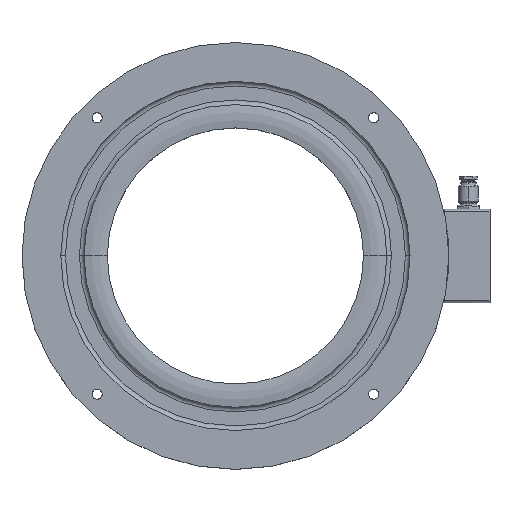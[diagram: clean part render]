
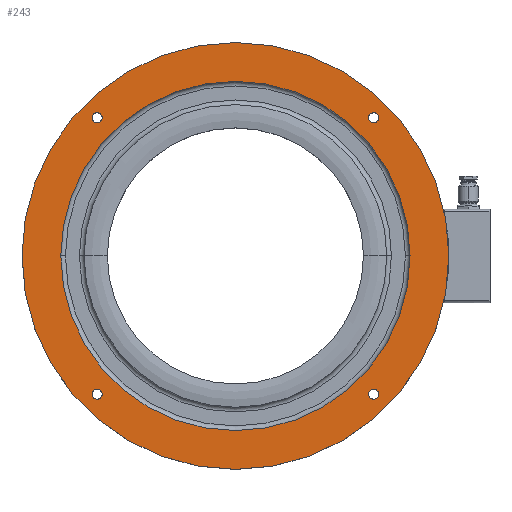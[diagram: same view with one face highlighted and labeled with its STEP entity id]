
A CAD part, top view. The second image highlights one B-rep face of the part: STEP entity #243.
In plain terms, the highlighted planar face has unit normal (0, 0, 1) as drawn and (0, 1, 0) by its records, which use the part's own axes.
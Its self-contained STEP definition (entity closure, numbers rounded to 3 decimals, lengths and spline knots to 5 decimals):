
#243=ADVANCED_FACE('0:66',(#510,#511,#512,#513,#514,#515),#516,.T.);
#510=FACE_OUTER_BOUND('',#841,.T.);
#511=FACE_BOUND('',#842,.T.);
#512=FACE_BOUND('',#843,.T.);
#513=FACE_BOUND('',#844,.T.);
#514=FACE_BOUND('',#845,.T.);
#515=FACE_BOUND('',#846,.T.);
#516=PLANE('',#847);
#841=EDGE_LOOP('',(#1270,#1271));
#842=EDGE_LOOP('',(#1272,#1273));
#843=EDGE_LOOP('',(#1274,#1275));
#844=EDGE_LOOP('',(#1276,#1277));
#845=EDGE_LOOP('',(#1278,#1279));
#846=EDGE_LOOP('',(#1280,#1281));
#847=AXIS2_PLACEMENT_3D('',#1282,#1283,#1284);
#1270=ORIENTED_EDGE('',*,*,#1944,.F.);
#1271=ORIENTED_EDGE('',*,*,#1999,.F.);
#1272=ORIENTED_EDGE('',*,*,#1964,.F.);
#1273=ORIENTED_EDGE('',*,*,#1990,.F.);
#1274=ORIENTED_EDGE('',*,*,#1969,.F.);
#1275=ORIENTED_EDGE('',*,*,#1987,.F.);
#1276=ORIENTED_EDGE('',*,*,#1974,.F.);
#1277=ORIENTED_EDGE('',*,*,#1984,.F.);
#1278=ORIENTED_EDGE('',*,*,#1979,.F.);
#1279=ORIENTED_EDGE('',*,*,#1981,.F.);
#1280=ORIENTED_EDGE('',*,*,#1927,.T.);
#1281=ORIENTED_EDGE('',*,*,#2006,.T.);
#1282=CARTESIAN_POINT('',(0.1125,0.04,0.0));
#1283=DIRECTION('',(0.,1.0,0.));
#1284=DIRECTION('',(1.0,0.0,0.));
#1927=EDGE_CURVE('0:132',#2247,#2244,#2248,.T.);
#1944=EDGE_CURVE('0:120',#2274,#2270,#2276,.T.);
#1964=EDGE_CURVE('0:99',#2306,#2302,#2308,.F.);
#1969=EDGE_CURVE('0:93',#2315,#2311,#2317,.F.);
#1974=EDGE_CURVE('0:87',#2324,#2320,#2326,.F.);
#1979=EDGE_CURVE('0:81',#2333,#2329,#2335,.F.);
#1981=EDGE_CURVE('',#2329,#2333,#2337,.F.);
#1984=EDGE_CURVE('',#2320,#2324,#2340,.F.);
#1987=EDGE_CURVE('',#2311,#2315,#2343,.F.);
#1990=EDGE_CURVE('',#2302,#2306,#2346,.F.);
#1999=EDGE_CURVE('',#2270,#2274,#2355,.T.);
#2006=EDGE_CURVE('',#2244,#2247,#2362,.T.);
#2244=VERTEX_POINT('',#2692);
#2247=VERTEX_POINT('',#2695);
#2248=CIRCLE('',#2696,0.1125);
#2270=VERTEX_POINT('',#2720);
#2274=VERTEX_POINT('NONE',#2725);
#2276=CIRCLE('',#2728,0.1375);
#2302=VERTEX_POINT('',#2758);
#2306=VERTEX_POINT('NONE',#2763);
#2308=CIRCLE('',#2766,0.00325);
#2311=VERTEX_POINT('',#2769);
#2315=VERTEX_POINT('NONE',#2774);
#2317=CIRCLE('',#2777,0.00325);
#2320=VERTEX_POINT('',#2780);
#2324=VERTEX_POINT('NONE',#2785);
#2326=CIRCLE('',#2788,0.00325);
#2329=VERTEX_POINT('',#2791);
#2333=VERTEX_POINT('NONE',#2796);
#2335=CIRCLE('',#2799,0.00325);
#2337=CIRCLE('',#2801,0.00325);
#2340=CIRCLE('',#2804,0.00325);
#2343=CIRCLE('',#2807,0.00325);
#2346=CIRCLE('',#2810,0.00325);
#2355=CIRCLE('',#2819,0.1375);
#2362=CIRCLE('',#2826,0.1125);
#2692=CARTESIAN_POINT('',(-0.1125,0.04,0.));
#2695=CARTESIAN_POINT('',(0.1125,0.04,0.));
#2696=AXIS2_PLACEMENT_3D('',#3282,#3283,#3284);
#2720=CARTESIAN_POINT('',(0.1375,0.04,0.));
#2725=CARTESIAN_POINT('',(-0.1375,0.04,0.));
#2728=AXIS2_PLACEMENT_3D('',#3316,#3317,#3318);
#2758=CARTESIAN_POINT('',(-0.0891,0.04,0.09235));
#2763=CARTESIAN_POINT('',(-0.0891,0.04,0.08585));
#2766=AXIS2_PLACEMENT_3D('',#3352,#3353,#3354);
#2769=CARTESIAN_POINT('',(0.0891,0.04,0.09235));
#2774=CARTESIAN_POINT('',(0.0891,0.04,0.08585));
#2777=AXIS2_PLACEMENT_3D('',#3360,#3361,#3362);
#2780=CARTESIAN_POINT('',(0.0891,0.04,-0.08585));
#2785=CARTESIAN_POINT('',(0.0891,0.04,-0.09235));
#2788=AXIS2_PLACEMENT_3D('',#3368,#3369,#3370);
#2791=CARTESIAN_POINT('',(-0.0891,0.04,-0.08585));
#2796=CARTESIAN_POINT('',(-0.0891,0.04,-0.09235));
#2799=AXIS2_PLACEMENT_3D('',#3376,#3377,#3378);
#2801=AXIS2_PLACEMENT_3D('',#3379,#3380,#3381);
#2804=AXIS2_PLACEMENT_3D('',#3385,#3386,#3387);
#2807=AXIS2_PLACEMENT_3D('',#3391,#3392,#3393);
#2810=AXIS2_PLACEMENT_3D('',#3397,#3398,#3399);
#2819=AXIS2_PLACEMENT_3D('',#3412,#3413,#3414);
#2826=AXIS2_PLACEMENT_3D('',#3424,#3425,#3426);
#3282=CARTESIAN_POINT('',(0.,0.04,0.0));
#3283=DIRECTION('',(0.0,-1.0,0.0));
#3284=DIRECTION('',(1.0,0.0,0.0));
#3316=CARTESIAN_POINT('',(0.,0.04,0.0));
#3317=DIRECTION('',(0.0,-1.0,0.0));
#3318=DIRECTION('',(1.0,0.0,0.0));
#3352=CARTESIAN_POINT('',(-0.0891,0.04,0.0891));
#3353=DIRECTION('',(0.,-1.0,0.));
#3354=DIRECTION('',(0.,0.,1.0));
#3360=CARTESIAN_POINT('',(0.0891,0.04,0.0891));
#3361=DIRECTION('',(0.,-1.0,0.));
#3362=DIRECTION('',(0.,0.,1.0));
#3368=CARTESIAN_POINT('',(0.0891,0.04,-0.0891));
#3369=DIRECTION('',(0.,-1.0,0.));
#3370=DIRECTION('',(0.,0.,1.0));
#3376=CARTESIAN_POINT('',(-0.0891,0.04,-0.0891));
#3377=DIRECTION('',(0.,-1.0,0.));
#3378=DIRECTION('',(0.,0.,1.0));
#3379=CARTESIAN_POINT('',(-0.0891,0.04,-0.0891));
#3380=DIRECTION('',(0.,-1.0,0.));
#3381=DIRECTION('',(0.,0.,1.0));
#3385=CARTESIAN_POINT('',(0.0891,0.04,-0.0891));
#3386=DIRECTION('',(0.,-1.0,0.));
#3387=DIRECTION('',(0.,0.,1.0));
#3391=CARTESIAN_POINT('',(0.0891,0.04,0.0891));
#3392=DIRECTION('',(0.,-1.0,0.));
#3393=DIRECTION('',(0.,0.,1.0));
#3397=CARTESIAN_POINT('',(-0.0891,0.04,0.0891));
#3398=DIRECTION('',(0.,-1.0,0.));
#3399=DIRECTION('',(0.,0.,1.0));
#3412=CARTESIAN_POINT('',(0.,0.04,0.0));
#3413=DIRECTION('',(0.0,-1.0,0.0));
#3414=DIRECTION('',(1.0,0.0,0.0));
#3424=CARTESIAN_POINT('',(0.,0.04,0.0));
#3425=DIRECTION('',(0.0,-1.0,0.0));
#3426=DIRECTION('',(1.0,0.0,0.0));
